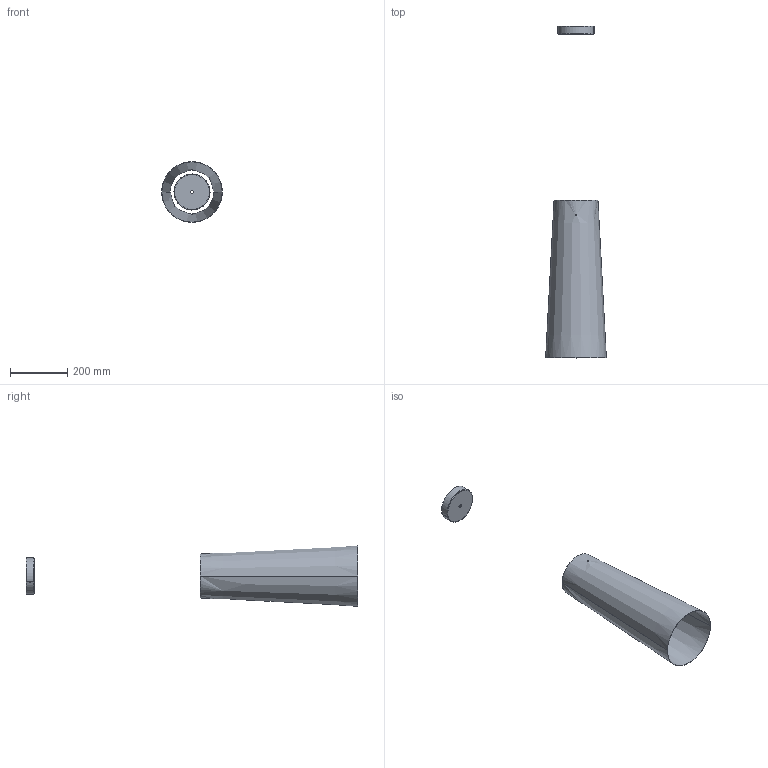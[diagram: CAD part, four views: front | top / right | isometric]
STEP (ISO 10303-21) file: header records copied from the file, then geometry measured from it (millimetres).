
FILE_DESCRIPTION (( 'STEP AP214' ), '1' );
FILE_NAME ('111_TITE-2_S_PL_3D.STEP', '2021-05-04T11:00:31', ( '' ), ( '' ), 'SwSTEP 2.0', 'SolidWorks 2021', '' );
FILE_SCHEMA (( 'AUTOMOTIVE_DESIGN' ));
Length unit declared in the file: millimetre
Products named in the file (1): 111_TITE-2_S_PL_3D
Bounding box: 212 x 1159.22 x 212 mm (x, y, z)
Volume: 212372.6 mm3; surface area: 678019.7 mm2
Topology: 2 solids, 2 shells, 29 faces, 63 edges, 40 vertices
Faces by surface type: cylinder 14, plane 7, cone 4, torus 4
Entity records: 1455 total; most frequent: CARTESIAN_POINT 427, DIRECTION 147, ORIENTED_EDGE 126, AXIS2_PLACEMENT_3D 64, EDGE_CURVE 63, VERTEX_POINT 40, EDGE_LOOP 39, CIRCLE 34
